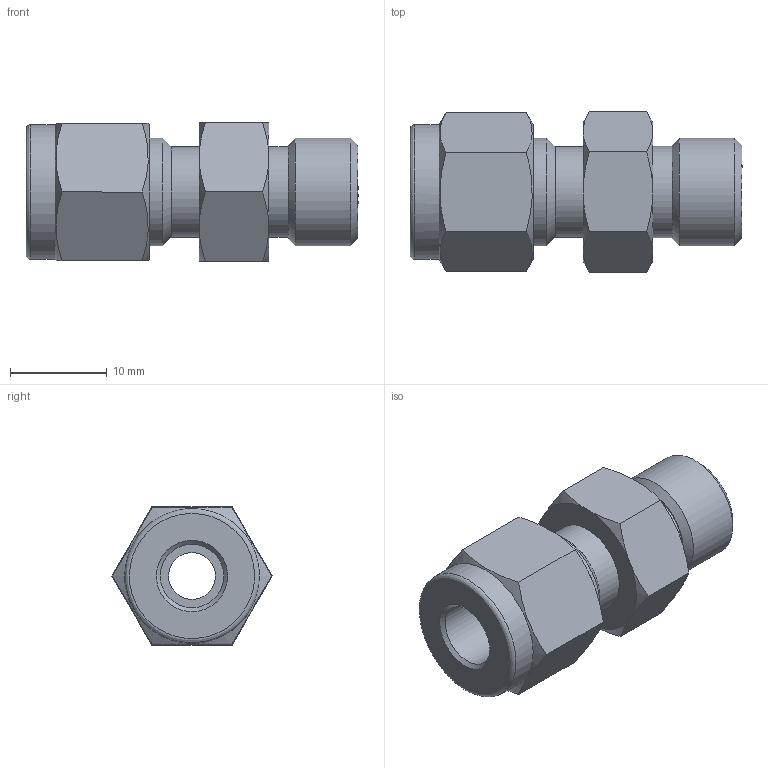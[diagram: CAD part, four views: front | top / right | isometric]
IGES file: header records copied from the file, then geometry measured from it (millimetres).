
Global section: file name: SSMC-4-4U; native system: Autodesk Inventor 2016; preprocessor: unknown; author: DESIGNPC2; date: 20160125.094304; units: millimetre
Bounding box: 34.24 x 16.51 x 14.3 mm (x, y, z)
Volume: 3758.5 mm3; surface area: 2521.8 mm2
Topology: 1 solids, 1 shells, 47 faces, 118 edges, 79 vertices
Faces by surface type: bspline 47
